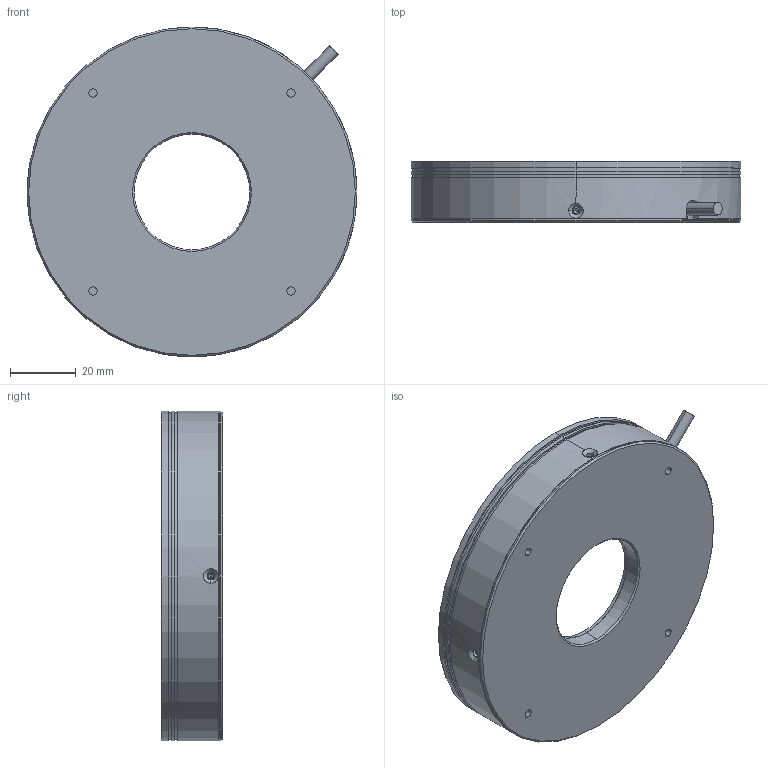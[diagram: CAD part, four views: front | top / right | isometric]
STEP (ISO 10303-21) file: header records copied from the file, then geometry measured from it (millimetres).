
FILE_DESCRIPTION (( 'STEP AP203' ), '1' );
FILE_NAME ('PPX-RIU100-W.STEP', '2022-08-30T06:07:51', ( 'Windows User' ), ( 'P R C' ), 'SwSTEP 2.0', 'SolidWorks 2016', '' );
FILE_SCHEMA (( 'CONFIG_CONTROL_DESIGN' ));
Length unit declared in the file: millimetre
Products named in the file (1): PPX-RIU100-W
Bounding box: 100 x 18.5 x 100 mm (x, y, z)
Volume: 89907.1 mm3; surface area: 54657.4 mm2
Topology: 4 solids, 4 shells, 128 faces, 309 edges, 192 vertices
Faces by surface type: cylinder 69, plane 25, cone 24, torus 10
Entity records: 4310 total; most frequent: CARTESIAN_POINT 1180, DIRECTION 677, ORIENTED_EDGE 602, EDGE_CURVE 301, AXIS2_PLACEMENT_3D 285, VERTEX_POINT 192, EDGE_LOOP 161, CIRCLE 156
